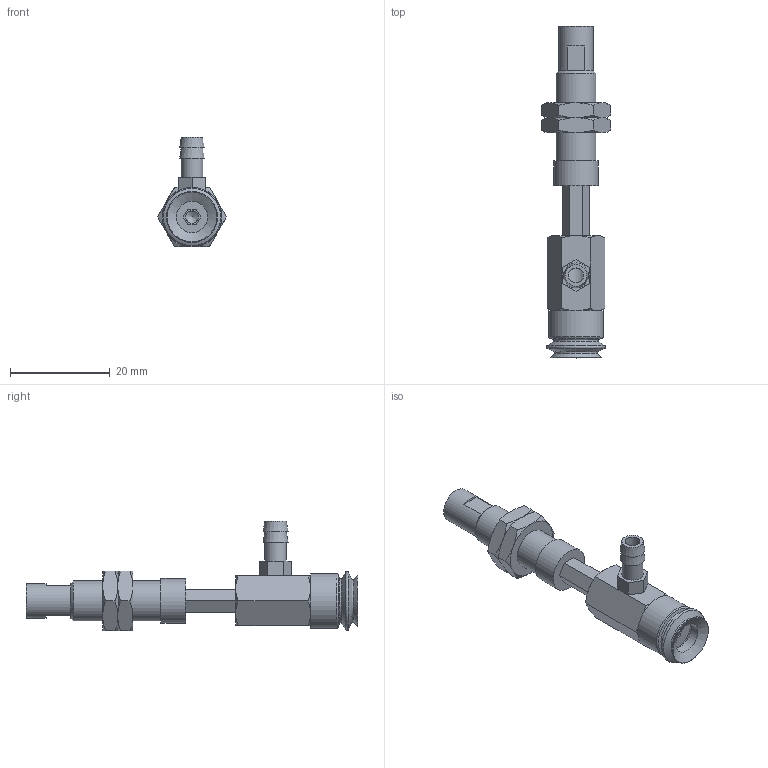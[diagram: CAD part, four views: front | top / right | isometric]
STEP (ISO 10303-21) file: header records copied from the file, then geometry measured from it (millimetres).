
FILE_DESCRIPTION(('STEP AP203'),'1');
FILE_NAME('-T.stp','2025-04-24T06:28:38',(' '),(' '),'Spatial InterOp 3D',' ',' ');
FILE_SCHEMA(('CONFIG_CONTROL_DESIGN'));
Length unit declared in the file: millimetre
Products named in the file (8): BNABPJYH-10-10-※-T; Adapter-10-NAPJ; CONNECTOR_H-10-10; NAPJH-10-10-NUT; NAPJTH-10-10-FBODY; NAPJTH-10-10-MBODY; BPJG-10-※; T
Assembly tree (8 placements, depth 2):
  BNABPJYH-10-10-※-T
    Adapter-10-NAPJ
    CONNECTOR_H-10-10
    NAPJH-10-10-NUT  x2
    NAPJTH-10-10-FBODY
    NAPJTH-10-10-MBODY
    BPJG-10-※
    T
Bounding box: 13.86 x 66.5 x 22 mm (x, y, z)
Volume: 4230.5 mm3; surface area: 4989.2 mm2
Topology: 8 solids, 8 shells, 167 faces, 362 edges, 223 vertices
Faces by surface type: plane 82, cone 59, cylinder 19, torus 7
Full cylindrical faces by diameter (mm): 2.5 x1, 3 x1, 4.134 x3, 4.3 x1, 4.6 x1, 5 x3, 6.266 x1, 7 x1, 7.188 x2, 7.8 x1, 8 x2, 9 x1, 11 x1
Entity records: 4382 total; most frequent: CARTESIAN_POINT 1082, DIRECTION 606, ORIENTED_EDGE 516, EDGE_CURVE 258, AXIS2_PLACEMENT_3D 247, EDGE_LOOP 212, VERTEX_POINT 185, FACE_OUTER_BOUND 169
